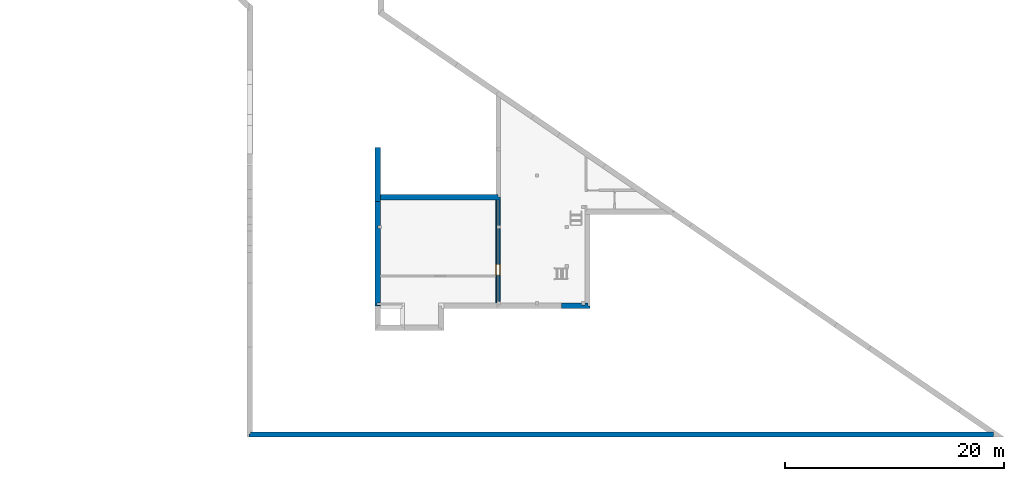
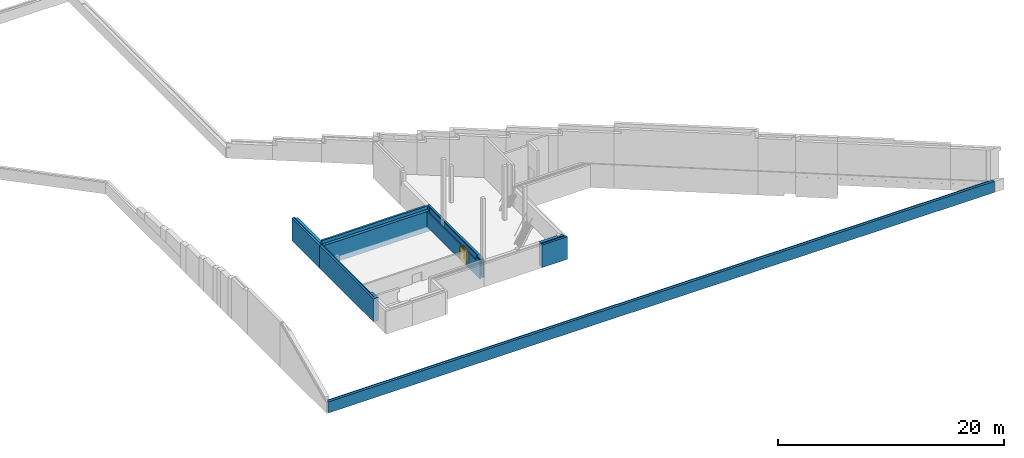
# One storey, part 5 of 8: 8 walls, 2 doors, 3 openings.
"""IFC2X3 building model written with IfcOpenShell, lengths in millimetres."""

from ifc_helpers import new_model, entity, si_unit, converted_unit, derived_unit, money_unit, direction, frame, origin_with_axes, place, context, subcontext, project, spatial, faceted_brep, material, material_list, type_object, element, fill, save


model = new_model("IFC2X3")

# Units and contexts
model_context = context("Model", 3, precision=0.01, world=origin_with_axes(), true_north=direction((0.0, 1.0)))
body_context = subcontext(model_context, "Body", "Model", "MODEL_VIEW")
ifc_project = project(units=[si_unit("LENGTHUNIT", "METRE", prefix="MILLI"), si_unit("AREAUNIT", "SQUARE_METRE"), si_unit("VOLUMEUNIT", "CUBIC_METRE"), converted_unit("PLANEANGLEUNIT", "DEGREE", entity("IfcPlaneAngleMeasure", 0.0174532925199), si_unit("PLANEANGLEUNIT", "RADIAN"), dimensions=[0, 0, 0, 0, 0, 0, 0]), si_unit("SOLIDANGLEUNIT", "STERADIAN"), money_unit("EUR"), converted_unit("TIMEUNIT", "Year", entity("IfcTimeMeasure", 31556926.0), si_unit("TIMEUNIT", "SECOND"), dimensions=[0, 0, 1, 0, 0, 0, 0]), si_unit("MASSUNIT", "GRAM", prefix="KILO"), si_unit("THERMODYNAMICTEMPERATUREUNIT", "DEGREE_CELSIUS"), si_unit("LUMINOUSINTENSITYUNIT", "LUMEN"), si_unit("ENERGYUNIT", "JOULE", prefix="MEGA"), derived_unit("THERMALCONDUCTANCEUNIT", [(si_unit("POWERUNIT", "WATT"), 1), (si_unit("LENGTHUNIT", "METRE"), -1), (si_unit("THERMODYNAMICTEMPERATUREUNIT", "KELVIN"), -1)]), derived_unit("SPECIFICHEATCAPACITYUNIT", [(si_unit("ENERGYUNIT", "JOULE"), 1), (si_unit("MASSUNIT", "GRAM", prefix="KILO"), -1), (si_unit("THERMODYNAMICTEMPERATUREUNIT", "KELVIN"), -1)]), derived_unit("MASSDENSITYUNIT", [(si_unit("MASSUNIT", "GRAM", prefix="KILO"), 1), (si_unit("VOLUMEUNIT", "CUBIC_METRE"), -1)])], contexts=[model_context])

# Site, building, storey
site_placement = place(None, origin_with_axes())
site = spatial("IfcSite", under=ifc_project, at=site_placement, Name="L.Koidula tn 11b", CompositionType="ELEMENT")
building_placement = place(site_placement, origin_with_axes())
building = spatial("IfcBuilding", under=site, at=building_placement, Name="Rakvere Riigigümnaasium", CompositionType="ELEMENT")
storey_placement = place(building_placement, frame((0.0, 0.0, -2100.0), z_axis=(0.0, 0.0, 1.0), x_axis=(1.0, 0.0, 0.0)))
storey = spatial("IfcBuildingStorey", under=building, at=storey_placement, Name="1.korrus_tehniline -2,10", CompositionType="ELEMENT", Elevation=-2100.0)

# Walls
ifc_material_1 = material(Name="SOJ-04_Soojustus - Mineraal Kõva")
ifc_material_2 = material(Name="Betoon element / plaat")
ifc_material_list_1 = material_list([ifc_material_1, ifc_material_2])
wall_type_1 = type_object("IfcWallType", Name="VS-07 500", PredefinedType="NOTDEFINED")
wall_1_placement = place(storey_placement, frame((47199.9999938, 17010.4555123, -550.0), z_axis=(0.0, 0.0, 1.0), x_axis=(0.0, 1.0, 0.0)))
element("IfcWall", 1, at=wall_1_placement, inside=storey, type_object=wall_type_1, material=ifc_material_list_1, Name="Soklisein", context=body_context, shape_type="Brep", body=[
    faceted_brep([(9590.00003493, 500.0, 2460.0), (9590.00003493, 300.0, 2460.0), (9590.00003493, 300.0, 0.0), (9590.00003493, 500.0, 0.0), (0.0, 500.0, 2460.0), (0.0, 300.0, 2460.0), (0.0, 300.0, 0.0), (0.0, 500.0, 0.0)], [[[0, 1, 2, 3]], [[1, 0, 4, 5]], [[1, 5, 6, 2]], [[7, 3, 2, 6]], [[0, 3, 7, 4]], [[5, 4, 7, 6]]]),
    faceted_brep([(7390.00003493, 199.998600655, 2200.0), (7390.00003493, 0.0, 2200.0), (9590.00003493, 0.0, 2200.0), (9590.00003493, 200.000000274, 2200.0), (7390.00003493, 0.0, 550.0), (7390.00003493, 199.998600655, 550.0), (7090.00003493, 0.0, 550.0), (7090.00003493, 0.0, 2200.0), (999.999997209, 0.0, 2200.0), (999.999997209, 0.0, 2480.0), (300.0, 0.0, 2480.0), (300.0, 0.0, 1300.0), (100.0, 0.0, 1300.0), (100.0, 0.0, 2480.0), (0.0, 0.0, 2480.0), (0.0, 0.0, 0.0), (9590.00003493, 0.0, 0.0), (9590.00003493, 300.0, 2480.0), (9590.00003493, 200.000000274, 2480.0), (9590.00003493, 300.0, 0.0), (7090.00003493, 199.998600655, 2200.0), (7090.00003493, 199.998600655, 550.0), (999.999997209, 200.000000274, 2480.0), (999.999997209, 200.000000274, 2200.0), (300.0, 299.998600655, 2480.0), (300.0, 299.998600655, 1300.0), (100.0, 299.998600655, 1300.0), (100.0, 299.998600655, 2480.0), (0.0, 300.0, 2480.0), (0.0, 300.0, 0.0)], [[[0, 1, 2, 3]], [[4, 1, 0, 5]], [[6, 7, 8, 9, 10, 11, 12, 13, 14, 15, 16, 2, 1, 4]], [[17, 18, 3, 2, 16, 19]], [[20, 21, 5, 0, 3, 18, 22, 23]], [[6, 4, 5, 21]], [[20, 7, 6, 21]], [[7, 20, 23, 8]], [[23, 22, 9, 8]], [[9, 22, 18, 17, 24, 10]], [[24, 25, 11, 10]], [[25, 26, 12, 11]], [[12, 26, 27, 13]], [[28, 14, 13, 27]], [[28, 29, 15, 14]], [[15, 29, 19, 16]], [[27, 26, 25, 24, 17, 19, 29, 28]]]),
])
wall_2_placement = place(storey_placement, frame((47199.9999938, 27000.4555472, -550.0), z_axis=(0.0, 0.0, 1.0), x_axis=(1.0, 0.0, 0.0)))
element("IfcWall", 2, at=wall_2_placement, inside=storey, type_object=wall_type_1, material=ifc_material_list_1, Name="Soklisein", context=body_context, shape_type="Brep", body=[
    faceted_brep([(10770.0348163, 200.0, 360.0), (10780.0348163, 200.0, 360.0), (10780.0348163, 200.0, 0.0), (0.0, 200.0, 0.0), (0.0, 200.0, 2479.99999993), (0.0, 200.0, 2550.0), (10780.0348163, 200.0, 2550.0), (10780.0348163, 200.0, 545.0), (10770.0348163, 200.0, 545.0), (10780.0348163, 0.0, 360.0), (10770.0348163, 0.0, 360.0), (10780.0348163, 0.0, 0.0), (0.0, 0.0, 0.0), (0.0, 0.0, 2550.0), (10780.0348163, 0.0, 2550.0), (10780.0348163, 0.0, 545.0), (10770.0348163, 0.0, 545.0)], [[[0, 1, 2, 3, 4, 5, 6, 7, 8]], [[9, 1, 0, 10]], [[1, 9, 11, 2]], [[3, 2, 11, 12]], [[5, 4, 3, 12, 13]], [[13, 14, 6, 5]], [[15, 7, 6, 14]], [[8, 7, 15, 16]], [[10, 0, 8, 16]], [[10, 16, 15, 14, 13, 12, 11, 9]]]),
    faceted_brep([(0.0, 0.0, 2200.0), (10780.0727945, 0.0, 2200.0), (10780.0727945, 0.0, 2550.0), (10980.0348163, 0.0, 2550.0), (10980.0348163, 0.0, 540.0), (10770.0348163, 0.0, 540.0), (10770.0348163, 0.0, 460.0), (10980.0348163, 0.0, 460.0), (10980.0348163, 0.0, 0.0), (0.0, 0.0, 0.0), (0.0, -300.0, 2200.0), (10780.0727945, -300.0, 2200.0), (10780.0727945, -300.0, 2550.0), (10980.0348163, -300.0, 2550.0), (10980.0348163, -300.0, 540.0), (10770.0348163, -300.0, 540.0), (10770.0348163, -300.0, 460.0), (10980.0348163, -300.0, 460.0), (10980.0348163, -300.0, 0.0), (0.0, -300.0, 0.0)], [[[0, 1, 2, 3, 4, 5, 6, 7, 8, 9]], [[1, 0, 10, 11]], [[2, 1, 11, 12]], [[2, 12, 13, 3]], [[14, 4, 3, 13]], [[5, 4, 14, 15]], [[6, 5, 15, 16]], [[17, 7, 6, 16]], [[7, 17, 18, 8]], [[9, 8, 18, 19]], [[10, 0, 9, 19]], [[11, 10, 19, 18, 17, 16, 15, 14, 13, 12]]]),
])
wall_3_placement = place(storey_placement, frame((47199.9999938, 27000.4555472, -550.0), z_axis=(0.0, 0.0, 1.0), x_axis=(0.0, 1.0, 0.0)))
element("IfcWall", 3, at=wall_3_placement, inside=storey, type_object=wall_type_1, material=ifc_material_list_1, Name="Soklisein", context=body_context, shape_type="Brep", body=[
    faceted_brep([(4499.999968, 500.000000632, 2460.0), (4499.999968, 300.000000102, 2460.0), (4499.99994729, 300.000012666, 0.0), (4499.99994729, 500.000010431, 0.0), (4499.99994729, 500.000010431, 2150.0), (-400.0, 300.0, 2460.0), (-400.0, 500.0, 2460.0), (-400.0, 300.0, 0.0), (-400.0, 500.0, 0.0)], [[[0, 1, 2, 3, 4]], [[5, 1, 0, 6]], [[1, 5, 7, 2]], [[7, 8, 3, 2]], [[6, 0, 4, 3, 8]], [[5, 6, 8, 7]]]),
    faceted_brep([(-400.0, 200.000000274, 2480.0), (0.0, 200.000000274, 2480.0), (0.0, 0.0, 2480.0), (4299.999968, 0.0, 2480.0), (4299.999968, 200.000000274, 2480.0), (4499.999968, 200.000000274, 2480.0), (4499.999968, 300.0, 2479.9999994), (-400.0, 300.0, 2480.0), (-400.0, 200.000000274, 2200.0), (0.0, 200.000000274, 2200.0), (0.0, 0.0, 2200.0), (-400.0, 0.0, 2200.0), (-400.0, 0.0, 0.0), (4499.99994729, 0.0, 0.0), (4499.999968, 0.0, 2150.0), (4299.999968, 0.0, 2150.0), (4299.999968, 200.000000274, 2150.0), (4499.999968, 200.000000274, 2150.0), (4499.99994729, 300.000012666, 0.0), (-400.0, 300.0, 0.0)], [[[0, 1, 2, 3, 4, 5, 6, 7]], [[1, 0, 8, 9]], [[10, 2, 1, 9]], [[10, 11, 12, 13, 14, 15, 3, 2]], [[16, 4, 3, 15]], [[16, 17, 5, 4]], [[6, 5, 17, 14, 13, 18]], [[7, 6, 18, 19]], [[8, 0, 7, 19, 12, 11]], [[11, 10, 9, 8]], [[12, 19, 18, 13]], [[16, 15, 14, 17]]]),
])
wall_4_placement = place(storey_placement, frame((65899.9980729, 17310.4555225, -549.988775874), z_axis=(0.0, 0.0, 1.0), x_axis=(-1.0, 0.0, 0.0)))
element("IfcWall", 4, at=wall_4_placement, inside=storey, type_object=wall_type_1, material=ifc_material_list_1, Name="Soklisein", context=body_context, shape_type="Brep", body=[
    faceted_brep([(2109.99807258, 300.0, 2459.98877587), (-500.0, 300.0, 2459.98877587), (-500.0, 300.0, 0.0), (2109.99807258, 300.0, 0.0), (-500.0, 500.0, 2459.98877587), (2109.99807258, 500.0, 2459.98877587), (-500.0, 500.0, 0.0), (2109.99807258, 500.0, 0.0)], [[[0, 1, 2, 3]], [[4, 1, 0, 5]], [[1, 4, 6, 2]], [[6, 7, 3, 2]], [[5, 0, 3, 7]], [[4, 5, 7, 6]]]),
    faceted_brep([(300.000070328, 0.0, 549.988775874), (7.03280278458e-05, 0.0, 549.988775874), (7.03280278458e-05, 0.0, 2549.98877587), (-300.0, 0.0, 2549.98877587), (-300.0, 0.0, 0.0), (2109.99807258, 0.0, 0.0), (2109.99807258, 0.0, 2549.98877587), (300.000070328, 0.0, 2549.98877587), (300.000070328, 200.000000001, 549.988775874), (7.03280278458e-05, 200.000000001, 549.988775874), (7.03280278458e-05, 200.000000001, 2549.98877587), (300.000070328, 200.000000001, 2549.98877587), (2109.99807258, 300.0, 2549.98877587), (-300.0, 300.0, 2549.98877587), (-300.0, 300.0, 0.0), (2109.99807258, 300.0, 0.0)], [[[0, 1, 2, 3, 4, 5, 6, 7]], [[1, 0, 8, 9]], [[10, 2, 1, 9]], [[11, 7, 6, 12, 13, 3, 2, 10]], [[4, 3, 13, 14]], [[14, 15, 5, 4]], [[12, 6, 5, 15]], [[0, 7, 11, 8]], [[11, 10, 9, 8]], [[13, 12, 15, 14]]]),
])
ifc_material_list_2 = material_list([ifc_material_2, ifc_material_1])
wall_type_2 = type_object("IfcWallType", Name="VS-05 450", PredefinedType="NOTDEFINED")
wall_5_placement = place(storey_placement, frame((35499.0000521, 5500.45553887, 899.999983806), z_axis=(0.0, 0.0, 1.0), x_axis=(1.0, 0.0, 0.0)))
element("IfcWall", 5, at=wall_5_placement, inside=storey, type_object=wall_type_2, material=ifc_material_list_2, Name="Välissein", context=body_context, shape_type="Brep", body=[
    faceted_brep([(67748.88942, 0.0, 1200.00001619), (67748.88942, 0.0, 1110.00001619), (67801.7199257, -36.2352528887, 1110.00001619), (67801.7199257, -36.2352528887, 1200.00001619), (67801.7199257, 0.0, 1200.0), (67801.7199257, 0.0, 0.0), (-200.0, 0.0, 0.0), (-200.0, 0.0, 1110.00001619), (67801.7199257, -200.0, 1110.00001619), (-200.0, -200.0, 1110.00001619), (67801.7199257, -200.0, 0.0), (-200.0, -200.0, 0.0)], [[[0, 1, 2, 3]], [[1, 0, 4, 5, 6, 7]], [[8, 2, 1, 7, 9]], [[2, 8, 10, 5, 4, 3]], [[0, 3, 4]], [[6, 5, 10, 11]], [[9, 7, 6, 11]], [[8, 9, 11, 10]]]),
    faceted_brep([(-300.0, -200.0, 0.0), (67801.7199257, -200.0, 0.0), (67801.7199257, -450.0, 0.0), (-300.0, -450.0, 0.0), (-300.0, -200.0, 1200.0), (67801.7199257, -200.0, 1200.0), (67801.7199257, -450.0, 1200.0), (-300.0, -450.0, 1200.0)], [[[0, 1, 2, 3]], [[4, 5, 1, 0]], [[2, 1, 5, 6]], [[3, 2, 6, 7]], [[4, 0, 3, 7]], [[7, 6, 5, 4]]]),
])

# Wall, opening
ifc_material_3 = material(Name="Krohv")
ifc_material_4 = material(Name="mineraalvill+karkass")
ifc_material_5 = material(Name="Kipsplaat")
ifc_material_list_3 = material_list([ifc_material_3, ifc_material_2, ifc_material_4, ifc_material_5])
wall_type_3 = type_object("IfcWallType", Name="SS-02-1 345", PredefinedType="NOTDEFINED")
wall_6_placement = place(storey_placement, frame((58180.0348101, 27000.4555472, 0.0), z_axis=(0.0, 0.0, 1.0), x_axis=(7.48639826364e-09, -1.0, 0.0)))
wall_6 = element("IfcWall", 6, at=wall_6_placement, inside=storey, type_object=wall_type_3, material=ifc_material_list_3, Name="Sisesein", context=body_context, shape_type="Brep", body=[
    faceted_brep([(300.000002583, 9.99999775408, 1995.0), (300.000002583, 9.99999775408, 0.0), (-300.000002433, 10.0000022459, 0.0), (-299.999999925, 10.0000022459, 2000.0), (2.58280863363e-06, 10.0, 2000.0), (2.58280863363e-06, 10.0, 2099.99999955), (9590.00003779, 9.99992820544, 2100.0), (9590.0000403, 9.99992820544, 1995.0), (300.000002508, -2.24591900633e-06, 1995.0), (300.000002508, -2.24591900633e-06, 0.0), (-300.000002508, 2.24591900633e-06, 0.0), (-300.0, 2.34258834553e-07, 2000.0), (2.50794229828e-06, -2.01166017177e-06, 2000.0), (2.50794229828e-06, -2.01166017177e-06, 2099.99999955), (9590.00003772, -7.17945596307e-05, 2100.0), (9590.00004023, -7.17945596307e-05, 1995.0)], [[[0, 1, 2, 3, 4, 5, 6, 7]], [[1, 0, 8, 9]], [[1, 9, 10, 2]], [[2, 10, 11, 3]], [[11, 12, 4, 3]], [[4, 12, 13, 5]], [[14, 6, 5, 13]], [[15, 7, 6, 14]], [[0, 7, 15, 8]], [[8, 15, 14, 13, 12, 11, 10, 9]]]),
    faceted_brep([(9590.00004023, -7.17945596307e-05, 1995.0), (2900.0, 5.00840044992e-05, 1995.0), (2900.0, 5.00840044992e-05, 2099.99999969), (9590.00003922, -7.17945596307e-05, 2100.0), (2899.9999985, -199.962043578, 1995.0), (9590.00003873, -200.000071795, 1995.0), (8990.00003622, -200.00006842, 1995.0), (8990.00003622, -199.96208917, 1995.0), (2899.9999985, -199.962043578, 2100.0), (8990.00003622, -200.000067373, 2100.0), (9590.00003772, -200.000071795, 2100.0), (8990.00003622, -199.96208917, 2100.0), (8990.00003622, -200.00006842, 2000.0), (8990.00003622, -199.96208917, 2000.0)], [[[0, 1, 2, 3]], [[4, 1, 0, 5, 6, 7]], [[1, 4, 8, 2]], [[9, 10, 3, 2, 8, 11]], [[5, 0, 3, 10]], [[6, 5, 10, 9, 12]], [[7, 6, 12, 13]], [[4, 7, 13, 11, 8]], [[13, 12, 9, 11]]]),
    faceted_brep([(2600.0, 5.23299235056e-05, 1995.0), (300.000002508, -2.2459119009e-06, 1995.0), (300.0, -2.2459119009e-06, 2000.0), (2.50794229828e-06, -2.2459119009e-06, 2000.0), (2.50794229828e-06, -2.01166017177e-06, 2099.99999955), (2600.0, 5.23299235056e-05, 2099.99999967), (300.000001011, -199.962024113, 1995.0), (2599.9999985, -199.962041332, 1995.0), (299.999998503, -199.962024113, 2000.0), (-1.49699275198e-06, -199.962021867, 2000.0), (-1.49699275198e-06, -199.962021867, 2100.0), (2599.9999985, -199.962041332, 2100.0)], [[[0, 1, 2, 3, 4, 5]], [[6, 1, 0, 7]], [[1, 6, 8, 2]], [[8, 9, 3, 2]], [[9, 10, 4, 3]], [[5, 4, 10, 11]], [[7, 0, 5, 11]], [[6, 7, 11, 10, 9, 8]]]),
    faceted_brep([(9590.00003865, -210.000071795, 1995.0), (8990.00003615, -210.000067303, 1995.0), (8990.00003615, -210.000067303, 2000.0), (8990.00003615, -210.000067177, 2100.0), (9590.00003847, -210.000071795, 2100.0), (8990.0000354, -310.000064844, 1995.0), (9590.00003791, -310.000071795, 1995.0), (8990.0000354, -310.000064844, 2000.0), (8990.0000354, -310.000067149, 2100.0), (9590.00003772, -310.000071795, 2100.0)], [[[0, 1, 2, 3, 4]], [[5, 1, 0, 6]], [[1, 5, 7, 2]], [[2, 7, 8, 3]], [[3, 8, 9, 4]], [[6, 0, 4, 9]], [[5, 6, 9, 8, 7]]]),
    faceted_brep([(9590.00003791, -310.000071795, 1995.0), (8990.0000354, -310.000067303, 1995.0), (8990.0000354, -310.000067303, 2000.0), (8990.0000354, -310.000067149, 2100.0), (9590.00003791, -310.000071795, 2100.0), (8990.00003521, -335.000067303, 1995.0), (9590.00003772, -335.000071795, 1995.0), (8990.00003521, -335.000067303, 2000.0), (8990.00003521, -335.000067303, 2100.0), (9590.00003772, -335.000071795, 2100.0)], [[[0, 1, 2, 3, 4]], [[5, 1, 0, 6]], [[1, 5, 7, 2]], [[7, 8, 3, 2]], [[8, 9, 4, 3]], [[6, 0, 4, 9]], [[5, 6, 9, 8, 7]]]),
])
opening_1_placement = place(wall_6_placement, frame((4945.00001886, 0.0, 0.0), z_axis=(0.0, 0.0, 1.0), x_axis=(1.0, 0.0, 0.0)))
element("IfcOpeningElement", 7, at=opening_1_placement, cuts=wall_6, Name="ava", context=body_context, shape_type="Brep", body=[
    faceted_brep([(4645.00002653, 689.999965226, 0.0), (4645.00002653, 689.999965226, 1995.0), (4645.00001878, -345.000034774, 1995.0), (4645.00001878, -345.000034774, 0.0), (-4645.00001119, 690.000034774, 0.0), (-4645.00001119, 690.000034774, 1995.0), (-4645.00001893, -344.999965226, 1995.0), (-4645.00001893, -344.999965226, 0.0)], [[[0, 1, 2, 3]], [[0, 4, 5, 1]], [[1, 5, 6, 2]], [[3, 2, 6, 7]], [[4, 0, 3, 7]], [[5, 4, 7, 6]]]),
])

# Wall, opening, door
ifc_material_list_4 = material_list([ifc_material_5, ifc_material_5, ifc_material_4, ifc_material_5, ifc_material_5])
wall_type_4 = type_object("IfcWallType", Name="SS-07 155", PredefinedType="NOTDEFINED")
wall_7_placement = place(storey_placement, frame((58190.0348101, 26700.4555472, 0.0), z_axis=(0.0, 0.0, 1.0), x_axis=(0.0, -1.0, 0.0)))
wall_7 = element("IfcWall", 8, at=wall_7_placement, inside=storey, type_object=wall_type_4, material=ifc_material_list_4, Name="Sisesein", context=body_context, shape_type="Brep", body=[
    faceted_brep([(6865.0000376, 0.0, 0.0), (6865.0000376, 0.0, 1500.0), (5865.00003749, 0.0, 1500.0), (5865.00003749, 0.0, 0.0), (0.0, 0.0, 0.0), (0.0, 0.0, 1995.0), (9390.00002468, 0.0, 1995.0), (9390.00002468, 0.0, 0.0), (6865.0000376, -15.0, 0.0), (6865.0000376, -15.0, 1500.0), (5865.00003749, -15.0, 1500.0), (5865.00003749, -15.0, 0.0), (2600.0, -15.0, 0.0), (2600.0, -9.99992820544, 0.0), (2300.0, -9.99992820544, 0.0), (2300.0, -15.0, 0.0), (0.0, -15.0, 0.0), (0.0, -15.0, 1995.0), (2300.0, -15.0, 1995.0), (2300.0, -9.99992820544, 1995.0), (2600.0, -9.99992820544, 1995.0), (2600.0, -15.0, 1995.0), (9290.00003772, -15.0, 1995.0), (9290.00003772, -9.99992820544, 1995.0), (9390.00002468, -9.99992820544, 1995.0), (9390.00002468, -9.99992820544, 0.0), (9290.00003772, -9.99992820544, 0.0), (9290.00003772, -15.0, 0.0)], [[[0, 1, 2, 3, 4, 5, 6, 7]], [[1, 0, 8, 9]], [[2, 1, 9, 10]], [[3, 2, 10, 11]], [[3, 11, 12, 13, 14, 15, 16, 4]], [[16, 17, 5, 4]], [[17, 18, 19, 20, 21, 22, 23, 24, 6, 5]], [[25, 7, 6, 24]], [[8, 0, 7, 25, 26, 27]], [[9, 8, 27, 22, 21, 12, 11, 10]], [[20, 13, 12, 21]], [[19, 14, 13, 20]], [[18, 15, 14, 19]], [[18, 17, 16, 15]], [[22, 27, 26, 23]], [[23, 26, 25, 24]]]),
    faceted_brep([(6865.0000376, -15.0, 0.0), (6865.0000376, -15.0, 1500.0), (5865.00003749, -15.0, 1500.0), (5865.00003749, -15.0, 0.0), (2600.0, -15.0, 0.0), (2600.0, -15.0, 1995.0), (9290.00003772, -15.0, 1995.0), (9290.00003772, -15.0, 0.0), (6865.0000376, -30.0, 0.0), (6865.0000376, -30.0, 1500.0), (5865.00003749, -30.0, 1500.0), (5865.00003749, -30.0, 0.0), (2600.0, -30.0, 0.0), (2600.0, -30.0, 1995.0), (9290.00003772, -30.0, 1995.0), (9290.00003772, -30.0, 0.0)], [[[0, 1, 2, 3, 4, 5, 6, 7]], [[1, 0, 8, 9]], [[2, 1, 9, 10]], [[3, 2, 10, 11]], [[3, 11, 12, 4]], [[5, 4, 12, 13]], [[13, 14, 6, 5]], [[6, 14, 15, 7]], [[8, 0, 7, 15]], [[9, 8, 15, 14, 13, 12, 11, 10]]]),
    faceted_brep([(2300.0, -30.0, 1995.0), (2300.0, -15.0, 1995.0), (0.0, -15.0, 1995.0), (0.0, -30.0, 1995.0), (2300.0, -15.0, 0.0), (2300.0, -30.0, 0.0), (0.0, -15.0, 0.0), (0.0, -30.0, 0.0)], [[[0, 1, 2, 3]], [[4, 1, 0, 5]], [[1, 4, 6, 2]], [[6, 7, 3, 2]], [[5, 0, 3, 7]], [[4, 5, 7, 6]]]),
    faceted_brep([(6865.0000376, -30.0, 0.0), (6865.0000376, -30.0, 1500.0), (5865.00003749, -30.0, 1500.0), (5865.00003749, -30.0, 0.0), (2600.0, -30.0, 0.0), (2600.0, -30.0, 1995.0), (9290.00003772, -30.0, 1995.0), (9290.00003772, -30.0, 0.0), (6865.0000376, -105.0, 0.0), (6865.0000376, -125.0, 0.0), (6865.0000376, -125.0, 1500.0), (5865.00003749, -125.0, 1500.0), (5865.00003749, -105.0, 0.0), (5865.00003749, -125.0, 0.0), (2600.0, -125.0, 0.0), (2600.0, -125.0, 1995.0), (9290.00003772, -125.0, 1995.0), (9290.00003772, -125.0, 0.0)], [[[0, 1, 2, 3, 4, 5, 6, 7]], [[1, 0, 8, 9, 10]], [[2, 1, 10, 11]], [[12, 3, 2, 11, 13]], [[3, 12, 13, 14, 4]], [[4, 14, 15, 5]], [[16, 6, 5, 15]], [[16, 17, 7, 6]], [[8, 0, 7, 17, 9]], [[14, 13, 11, 10, 9, 17, 16, 15]]]),
    faceted_brep([(2300.0, -125.0, 1995.0), (2300.0, -30.0, 1995.0), (0.0, -30.0, 1995.0), (0.0, -125.0, 1995.0), (2300.0, -30.0, 0.0), (2300.0, -125.0, 0.0), (0.0, -30.0, 0.0), (0.0, -125.0, 0.0)], [[[0, 1, 2, 3]], [[4, 1, 0, 5]], [[1, 4, 6, 2]], [[6, 7, 3, 2]], [[5, 0, 3, 7]], [[4, 5, 7, 6]]]),
    faceted_brep([(6865.0000376, -125.0, 0.0), (6865.0000376, -125.0, 1500.0), (5865.00003749, -125.0, 1500.0), (5865.00003749, -125.0, 0.0), (2600.0, -125.0, 0.0), (2600.0, -125.0, 1995.0), (9290.00003772, -125.0, 1995.0), (9290.00003772, -125.0, 0.0), (6865.0000376, -140.0, 0.0), (6865.0000376, -140.0, 1500.0), (5865.00003749, -140.0, 1500.0), (5865.00003749, -140.0, 0.0), (2600.0, -140.0, 0.0), (2600.0, -140.0, 1995.0), (9290.00003772, -140.0, 1995.0), (9290.00003772, -140.0, 0.0)], [[[0, 1, 2, 3, 4, 5, 6, 7]], [[1, 0, 8, 9]], [[2, 1, 9, 10]], [[3, 2, 10, 11]], [[3, 11, 12, 4]], [[5, 4, 12, 13]], [[13, 14, 6, 5]], [[6, 14, 15, 7]], [[8, 0, 7, 15]], [[9, 8, 15, 14, 13, 12, 11, 10]]]),
    faceted_brep([(2300.0, -140.0, 1995.0), (2300.0, -125.0, 1995.0), (0.0, -125.0, 1995.0), (0.0, -140.0, 1995.0), (2300.0, -125.0, 0.0), (2300.0, -140.0, 0.0), (0.0, -125.0, 0.0), (0.0, -140.0, 0.0)], [[[0, 1, 2, 3]], [[4, 1, 0, 5]], [[1, 4, 6, 2]], [[6, 7, 3, 2]], [[5, 0, 3, 7]], [[4, 5, 7, 6]]]),
    faceted_brep([(6865.0000376, -140.0, 0.0), (6865.0000376, -140.0, 1500.0), (5865.00003749, -140.0, 1500.0), (5865.00003749, -140.0, 0.0), (2600.0, -140.0, 0.0), (2600.0, -140.0, 1995.0), (9290.00003772, -140.0, 1995.0), (9290.00003772, -140.0, 0.0), (6865.0000376, -155.0, 0.0), (6865.0000376, -155.0, 1500.0), (5865.00003749, -155.0, 1500.0), (5865.00003749, -155.0, 0.0), (2600.0, -155.0, 0.0), (2600.0, -155.0, 1995.0), (9290.00003772, -155.0, 1995.0), (9290.00003772, -155.0, 0.0)], [[[0, 1, 2, 3, 4, 5, 6, 7]], [[1, 0, 8, 9]], [[2, 1, 9, 10]], [[3, 2, 10, 11]], [[3, 11, 12, 4]], [[5, 4, 12, 13]], [[13, 14, 6, 5]], [[6, 14, 15, 7]], [[8, 0, 7, 15]], [[9, 8, 15, 14, 13, 12, 11, 10]]]),
    faceted_brep([(2300.0, -155.0, 1995.0), (2300.0, -140.0, 1995.0), (0.0, -140.0, 1995.0), (0.0, -155.0, 1995.0), (2300.0, -140.0, 0.0), (2300.0, -155.0, 0.0), (0.0, -140.0, 0.0), (0.0, -155.0, 0.0)], [[[0, 1, 2, 3]], [[4, 1, 0, 5]], [[1, 4, 6, 2]], [[6, 7, 3, 2]], [[5, 0, 3, 7]], [[4, 5, 7, 6]]]),
])
opening_2_placement = place(wall_7_placement, frame((6365.00003754, 0.0, 0.0), z_axis=(0.0, 0.0, 1.0), x_axis=(1.0, 0.0, 0.0)))
opening_2 = element("IfcOpeningElement", 9, at=opening_2_placement, cuts=wall_7, Name="TL-01", context=body_context, shape_type="Brep", body=[
    faceted_brep([(500.000000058, 155.0, 0.0), (500.000000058, 155.0, 1500.0), (500.000000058, -105.0, 1500.0), (500.000000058, -105.0, 0.0), (-500.000000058, 155.0, 0.0), (-500.000000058, 155.0, 1500.0), (-500.000000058, -105.0, 1500.0), (-500.000000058, -105.0, 0.0)], [[[0, 1, 2, 3]], [[0, 4, 5, 1]], [[1, 5, 6, 2]], [[3, 2, 6, 7]], [[4, 0, 3, 7]], [[5, 4, 7, 6]]]),
    faceted_brep([(500.000000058, -310.0, 1500.0), (500.000000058, -310.0, 0.0), (500.000000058, -105.0, 0.0), (500.000000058, -105.0, 1500.0), (-500.000000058, -310.0, 1500.0), (-500.000000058, -310.0, 0.0), (-500.000000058, -105.0, 0.0), (-500.000000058, -105.0, 1500.0)], [[[0, 1, 2, 3]], [[0, 4, 5, 1]], [[1, 5, 6, 2]], [[3, 2, 6, 7]], [[4, 0, 3, 7]], [[5, 4, 7, 6]]]),
])
door_style_1 = type_object("IfcDoorStyle", Name="Door 23", ConstructionType="NOTDEFINED", OperationType="SINGLE_SWING_RIGHT", ParameterTakesPrecedence=False, Sizeable=False)
door_1_placement = place(opening_2_placement, frame((-500.000000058, 0.0, 0.0), z_axis=(0.0, 0.0, 1.0), x_axis=(1.0, 0.0, 0.0)))
door_1 = element("IfcDoor", 10, at=door_1_placement, inside=storey, type_object=door_style_1, Name="TL-01", ObjectType="DOOR", OverallHeight=1500.0, OverallWidth=1000.0, context=body_context, shape_type="Brep", body=[
    faceted_brep([(50.0, -65.0, 0.0), (50.0, -65.0, 1450.0), (50.0, -105.0, 1450.0), (50.0, -105.0, 0.0), (38.0, -65.0, 1450.0), (38.0, -65.0, 0.0), (38.0, -25.0, 1450.0), (0.0, -25.0, 1450.0), (0.0, -105.0, 1450.0), (0.0, -105.0, 0.0), (0.0, -25.0, 0.0), (38.0, -25.0, 0.0)], [[[0, 1, 2, 3]], [[4, 1, 0, 5]], [[4, 6, 7, 8, 2, 1]], [[3, 2, 8, 9]], [[5, 0, 3, 9, 10, 11]], [[6, 4, 5, 11]], [[6, 11, 10, 7]], [[10, 9, 8, 7]]]),
    faceted_brep([(962.000000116, -65.0, 1450.0), (950.000000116, -65.0, 1450.0), (950.000000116, -105.0, 1450.0), (1000.00000012, -105.0, 1450.0), (1000.00000012, -25.0, 1450.0), (962.000000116, -25.0, 1450.0), (962.000000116, -65.0, 0.0), (950.000000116, -65.0, 0.0), (950.000000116, -105.0, 0.0), (1000.00000012, -105.0, 0.0), (1000.00000012, -25.0, 0.0), (962.000000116, -25.0, 0.0)], [[[0, 1, 2, 3, 4, 5]], [[1, 0, 6, 7]], [[1, 7, 8, 2]], [[3, 2, 8, 9]], [[4, 3, 9, 10]], [[11, 5, 4, 10]], [[0, 5, 11, 6]], [[6, 11, 10, 9, 8, 7]]]),
    faceted_brep([(38.0, -25.0, 1462.0), (38.0, -25.0, 1450.0), (0.0, -25.0, 1450.0), (0.0, -25.0, 1500.0), (1000.00000012, -25.0, 1500.0), (1000.00000012, -25.0, 1450.0), (962.000000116, -25.0, 1450.0), (962.000000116, -25.0, 1462.0), (38.0, -65.0, 1462.0), (38.0, -65.0, 1450.0), (50.0, -65.0, 1450.0), (50.0, -105.0, 1450.0), (0.0, -105.0, 1450.0), (0.0, -105.0, 1500.0), (1000.00000012, -105.0, 1500.0), (1000.00000012, -105.0, 1450.0), (962.000000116, -65.0, 1450.0), (950.000000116, -105.0, 1450.0), (950.000000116, -65.0, 1450.0), (962.000000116, -65.0, 1462.0)], [[[0, 1, 2, 3, 4, 5, 6, 7]], [[1, 0, 8, 9]], [[9, 10, 11, 12, 2, 1]], [[2, 12, 13, 3]], [[3, 13, 14, 4]], [[4, 14, 15, 5]], [[16, 6, 5, 15, 17, 18]], [[7, 6, 16, 19]], [[0, 7, 19, 8]], [[16, 18, 10, 9, 8, 19]], [[10, 18, 17, 11]], [[17, 15, 14, 13, 12, 11]]]),
    faceted_brep([(962.000000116, -25.0, 0.0), (962.000000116, -65.0, 0.0), (38.0, -65.0, 0.0), (38.0, -25.0, 0.0), (962.000000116, -25.0, 1462.0), (962.000000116, -65.0, 1462.0), (38.0, -65.0, 1462.0), (38.0, -25.0, 1462.0)], [[[0, 1, 2, 3]], [[4, 5, 1, 0]], [[1, 5, 6, 2]], [[3, 2, 6, 7]], [[0, 3, 7, 4]], [[7, 6, 5, 4]]]),
])
fill(opening_2, door_1)

ifc_material_list_5 = material_list([ifc_material_4, ifc_material_5, ifc_material_5])
wall_type_5 = type_object("IfcWallType", Name="SS-06 121", PredefinedType="NOTDEFINED")
wall_8_placement = place(storey_placement, frame((57764.0348819, 26700.4555472, 0.0), z_axis=(0.0, 0.0, 1.0), x_axis=(0.0, -1.0, 0.0)))
wall_8 = element("IfcWall", 11, at=wall_8_placement, inside=storey, type_object=wall_type_5, material=ifc_material_list_5, Name="Sisesein", context=body_context, shape_type="Brep", body=[
    faceted_brep([(6865.0000376, 121.0, 1500.0), (6865.0000376, 26.0, 1500.0), (5865.00003749, 26.0, 1500.0), (5865.00003749, 121.0, 1500.0), (6865.0000376, 71.0, 0.0), (6865.0000376, 26.0, 0.0), (6865.0000376, 121.0, 0.0), (9390.00002468, 26.0, 0.0), (9390.00002468, 26.0, 1995.0), (8690.00003772, 26.0, 1995.0), (8690.00003772, 26.0, 1650.0), (0.0, 26.0, 1650.0), (0.0, 26.0, 0.0), (5865.00003749, 26.0, 0.0), (5865.00003749, 71.0, 0.0), (5865.00003749, 121.0, 0.0), (8690.00003772, 121.0, 1995.0), (9290.00003772, 121.0, 1995.0), (9290.00003772, 121.0, 0.0), (2600.0, 121.0, 0.0), (2600.0, 121.0, 1650.0), (8690.00003772, 121.0, 1650.0), (9290.00003772, 116.0, 0.0), (9390.00002468, 116.0, 0.0), (9390.00002468, 116.0, 1995.0), (9290.00003772, 116.0, 1995.0), (2300.0, 121.0, 1650.0), (0.0, 121.0, 1650.0), (2600.0, 116.0, 1650.0), (2300.0, 116.0, 1650.0), (0.0, 121.0, 0.0), (2300.0, 121.0, 0.0), (2300.0, 116.0, 0.0), (2600.0, 116.0, 0.0)], [[[0, 1, 2, 3]], [[4, 5, 1, 0, 6]], [[1, 5, 7, 8, 9, 10, 11, 12, 13, 2]], [[3, 2, 13, 14, 15]], [[16, 17, 18, 6, 0, 3, 15, 19, 20, 21]], [[5, 4, 6, 18, 22, 23, 7]], [[8, 7, 23, 24]], [[24, 25, 17, 16, 9, 8]], [[10, 9, 16, 21]], [[26, 27, 11, 10, 21, 20, 28, 29]], [[27, 30, 12, 11]], [[14, 13, 12, 30, 31, 32, 33, 19, 15]], [[25, 22, 18, 17]], [[19, 33, 28, 20]], [[23, 22, 25, 24]], [[30, 27, 26, 31]], [[33, 32, 29, 28]], [[29, 32, 31, 26]]]),
    faceted_brep([(6865.0000376, 26.0, 0.0), (6865.0000376, 26.0, 1500.0), (5865.00003749, 26.0, 1500.0), (5865.00003749, 26.0, 0.0), (0.0, 26.0, 0.0), (0.0, 26.0, 1650.0), (6895.0000376, 26.0, 1650.0), (6895.0000376, 26.0, 0.0), (6865.0000376, 13.0, 0.0), (6865.0000376, 13.0, 1500.0), (5865.00003749, 13.0, 1500.0), (5865.00003749, 13.0, 0.0), (0.0, 13.0, 0.0), (0.0, 13.0, 1650.0), (6895.0000376, 13.0, 1650.0), (6895.0000376, 13.0, 0.0)], [[[0, 1, 2, 3, 4, 5, 6, 7]], [[1, 0, 8, 9]], [[2, 1, 9, 10]], [[3, 2, 10, 11]], [[3, 11, 12, 4]], [[5, 4, 12, 13]], [[5, 13, 14, 6]], [[14, 15, 7, 6]], [[8, 0, 7, 15]], [[9, 8, 15, 14, 13, 12, 11, 10]]]),
    faceted_brep([(6990.0000376, 13.0, 1650.0), (6990.0000376, 26.0, 1650.0), (6990.0000376, 26.0, 0.0), (6990.0000376, 13.0, 0.0), (8690.00003772, 26.0, 1650.0), (8690.00003772, 13.0, 1650.0), (8690.00003772, 26.0, 1995.0), (9390.00002468, 26.0, 1995.0), (9390.00002468, 26.0, 0.0), (9390.00002468, 13.0, 0.0), (9390.00002468, 13.0, 1995.0), (8690.00003772, 13.0, 1995.0)], [[[0, 1, 2, 3]], [[4, 1, 0, 5]], [[4, 6, 7, 8, 2, 1]], [[8, 9, 3, 2]], [[5, 0, 3, 9, 10, 11]], [[4, 5, 11, 6]], [[6, 11, 10, 7]], [[9, 8, 7, 10]]]),
    faceted_brep([(6865.0000376, 13.0, 0.0), (6865.0000376, 13.0, 1500.0), (5865.00003749, 13.0, 1500.0), (5865.00003749, 13.0, 0.0), (0.0, 13.0, 0.0), (0.0, 13.0, 1650.0), (6880.0000376, 13.0, 1650.0), (6880.0000376, 13.0, 0.0), (6865.0000376, 0.0, 0.0), (6865.0000376, 0.0, 1500.0), (5865.00003749, 0.0, 1500.0), (5865.00003749, 0.0, 0.0), (0.0, 0.0, 0.0), (0.0, 0.0, 1650.0), (6880.0000376, 0.0, 1650.0), (6880.0000376, 0.0, 0.0)], [[[0, 1, 2, 3, 4, 5, 6, 7]], [[1, 0, 8, 9]], [[2, 1, 9, 10]], [[3, 2, 10, 11]], [[3, 11, 12, 4]], [[5, 4, 12, 13]], [[5, 13, 14, 6]], [[14, 15, 7, 6]], [[8, 0, 7, 15]], [[9, 8, 15, 14, 13, 12, 11, 10]]]),
    faceted_brep([(7005.0000376, 0.0, 1650.0), (7005.0000376, 13.0, 1650.0), (7005.0000376, 13.0, 0.0), (7005.0000376, 0.0, 0.0), (8690.00003772, 13.0, 1650.0), (8690.00003772, 0.0, 1650.0), (8690.00003772, 13.0, 1995.0), (9390.00002468, 13.0, 1995.0), (9390.00002468, 13.0, 0.0), (9390.00002468, 0.0, 0.0), (9390.00002468, 0.0, 1995.0), (8690.00003772, 0.0, 1995.0)], [[[0, 1, 2, 3]], [[4, 1, 0, 5]], [[4, 6, 7, 8, 2, 1]], [[8, 9, 3, 2]], [[5, 0, 3, 9, 10, 11]], [[4, 5, 11, 6]], [[6, 11, 10, 7]], [[9, 8, 7, 10]]]),
])
opening_3_placement = place(wall_8_placement, frame((6365.00003754, 0.0, 0.0), z_axis=(0.0, 0.0, 1.0), x_axis=(1.0, 0.0, 0.0)))
opening_3 = element("IfcOpeningElement", 12, at=opening_3_placement, cuts=wall_8, Name="TL-01-1", context=body_context, shape_type="Brep", body=[
    faceted_brep([(500.000000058, 71.0, 0.0), (500.000000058, 71.0, 1500.0), (500.000000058, -121.0, 1500.0), (500.000000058, -121.0, 0.0), (-500.000000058, 71.0, 0.0), (-500.000000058, 71.0, 1500.0), (-500.000000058, -121.0, 1500.0), (-500.000000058, -121.0, 0.0)], [[[0, 1, 2, 3]], [[0, 4, 5, 1]], [[1, 5, 6, 2]], [[3, 2, 6, 7]], [[4, 0, 3, 7]], [[5, 4, 7, 6]]]),
    faceted_brep([(500.000000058, 71.0, 1500.0), (500.000000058, 71.0, 0.0), (500.000000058, 242.0, 0.0), (500.000000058, 242.0, 1500.0), (-500.000000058, 71.0, 1500.0), (-500.000000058, 71.0, 0.0), (-500.000000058, 242.0, 0.0), (-500.000000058, 242.0, 1500.0)], [[[0, 1, 2, 3]], [[0, 4, 5, 1]], [[1, 5, 6, 2]], [[3, 2, 6, 7]], [[4, 0, 3, 7]], [[5, 4, 7, 6]]]),
])
door_style_2 = type_object("IfcDoorStyle", Name="Door 23", ConstructionType="NOTDEFINED", OperationType="SINGLE_SWING_LEFT", ParameterTakesPrecedence=False, Sizeable=False)
door_2_placement = place(opening_3_placement, frame((500.000000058, 0.0, 0.0), z_axis=(0.0, 0.0, 1.0), x_axis=(-1.0, 0.0, 0.0)))
door_2 = element("IfcDoor", 13, at=door_2_placement, inside=storey, type_object=door_style_2, Name="TL-01-1", ObjectType="DOOR", OverallHeight=1500.0, OverallWidth=1000.0, context=body_context, shape_type="Brep", body=[
    faceted_brep([(950.000000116, -31.0, 0.0), (950.000000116, -71.0, 0.0), (950.000000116, -71.0, 1450.0), (950.000000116, -31.0, 1450.0), (962.000000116, -31.0, 0.0), (962.000000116, 9.0, 0.0), (1000.00000012, 9.0, 0.0), (1000.00000012, -71.0, 0.0), (1000.00000012, -71.0, 1450.0), (962.000000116, -31.0, 1450.0), (1000.00000012, 9.0, 1450.0), (962.000000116, 9.0, 1450.0)], [[[0, 1, 2, 3]], [[4, 5, 6, 7, 1, 0]], [[1, 7, 8, 2]], [[9, 3, 2, 8, 10, 11]], [[9, 4, 0, 3]], [[11, 5, 4, 9]], [[11, 10, 6, 5]], [[6, 10, 8, 7]]]),
    faceted_brep([(38.0, -31.0, 1450.0), (38.0, 9.0, 1450.0), (0.0, 9.0, 1450.0), (0.0, -71.0, 1450.0), (50.0, -71.0, 1450.0), (50.0, -31.0, 1450.0), (38.0, -31.0, 0.0), (38.0, 9.0, 0.0), (0.0, 9.0, 0.0), (0.0, -71.0, 0.0), (50.0, -71.0, 0.0), (50.0, -31.0, 0.0)], [[[0, 1, 2, 3, 4, 5]], [[0, 6, 7, 1]], [[7, 8, 2, 1]], [[2, 8, 9, 3]], [[3, 9, 10, 4]], [[5, 4, 10, 11]], [[5, 11, 6, 0]], [[6, 11, 10, 9, 8, 7]]]),
    faceted_brep([(962.000000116, 9.0, 1462.0), (38.0, 9.0, 1462.0), (38.0, 9.0, 1450.0), (0.0, 9.0, 1450.0), (0.0, 9.0, 1500.0), (1000.00000012, 9.0, 1500.0), (1000.00000012, 9.0, 1450.0), (962.000000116, 9.0, 1450.0), (962.000000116, -31.0, 1462.0), (38.0, -31.0, 1462.0), (38.0, -31.0, 1450.0), (50.0, -31.0, 1450.0), (50.0, -71.0, 1450.0), (0.0, -71.0, 1450.0), (0.0, -71.0, 1500.0), (1000.00000012, -71.0, 1500.0), (1000.00000012, -71.0, 1450.0), (962.000000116, -31.0, 1450.0), (950.000000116, -71.0, 1450.0), (950.000000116, -31.0, 1450.0)], [[[0, 1, 2, 3, 4, 5, 6, 7]], [[0, 8, 9, 1]], [[1, 9, 10, 2]], [[10, 11, 12, 13, 3, 2]], [[4, 3, 13, 14]], [[5, 4, 14, 15]], [[6, 5, 15, 16]], [[17, 7, 6, 16, 18, 19]], [[7, 17, 8, 0]], [[10, 9, 8, 17, 19, 11]], [[19, 18, 12, 11]], [[12, 18, 16, 15, 14, 13]]]),
    faceted_brep([(38.0, 9.0, 0.0), (962.000000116, 9.0, 0.0), (962.000000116, -31.0, 0.0), (38.0, -31.0, 0.0), (38.0, 9.0, 1462.0), (962.000000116, 9.0, 1462.0), (962.000000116, -31.0, 1462.0), (38.0, -31.0, 1462.0)], [[[0, 1, 2, 3]], [[0, 4, 5, 1]], [[1, 5, 6, 2]], [[3, 2, 6, 7]], [[4, 0, 3, 7]], [[5, 4, 7, 6]]]),
])
fill(opening_3, door_2)

save(model, "model.ifc")
